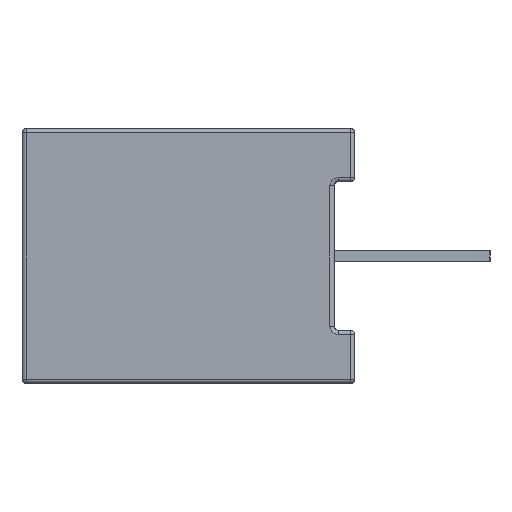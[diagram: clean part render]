
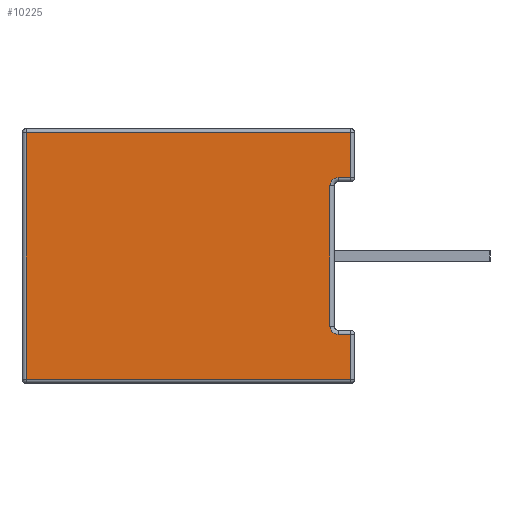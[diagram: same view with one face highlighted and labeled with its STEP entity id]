
A CAD part, left-side view. The second image highlights one B-rep face of the part: STEP entity #10225.
In plain terms, the highlighted planar face has unit normal (-1, 0, 0).
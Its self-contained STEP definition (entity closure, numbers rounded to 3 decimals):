
#312 = CARTESIAN_POINT ( 'NONE',  ( -12.05, 7.522, -3.01 ) ) ;
#360 = ORIENTED_EDGE ( 'NONE', *, *, #26099, .T. ) ;
#742 = CARTESIAN_POINT ( 'NONE',  ( -12.05, -0.1, -1.91 ) ) ;
#1644 = EDGE_CURVE ( 'NONE', #15298, #9460, #17865, .T. ) ;
#1932 = CARTESIAN_POINT ( 'NONE',  ( -12.05, 7.622, 3.11 ) ) ;
#2129 = VERTEX_POINT ( 'NONE', #24159 ) ;
#2350 = VECTOR ( 'NONE', #8191, 1000. ) ;
#3985 = VECTOR ( 'NONE', #30555, 1000. ) ;
#4124 = DIRECTION ( 'NONE',  ( 0., 0., 1. ) ) ;
#4594 = VECTOR ( 'NONE', #28759, 1000. ) ;
#4979 = VERTEX_POINT ( 'NONE', #10432 ) ;
#5230 = CARTESIAN_POINT ( 'NONE',  ( -12.05, 7.622, 3.01 ) ) ;
#6700 = DIRECTION ( 'NONE',  ( 0., -1., 0. ) ) ;
#6976 = CARTESIAN_POINT ( 'NONE',  ( -12.05, 0.1, 1.71 ) ) ;
#8064 = DIRECTION ( 'NONE',  ( 0., 0., -1. ) ) ;
#8118 = ORIENTED_EDGE ( 'NONE', *, *, #22806, .T. ) ;
#8191 = DIRECTION ( 'NONE',  ( 0., 0., -1. ) ) ;
#8561 = ORIENTED_EDGE ( 'NONE', *, *, #20427, .T. ) ;
#8851 = ORIENTED_EDGE ( 'NONE', *, *, #19604, .T. ) ;
#9460 = VERTEX_POINT ( 'NONE', #12638 ) ;
#9788 = AXIS2_PLACEMENT_3D ( 'NONE', #23592, #20195, #15175 ) ;
#9998 = CARTESIAN_POINT ( 'NONE',  ( -12.05, -0.1, 1.91 ) ) ;
#10225 = ADVANCED_FACE ( 'NONE', ( #15593 ), #12724, .F. ) ;
#10432 = CARTESIAN_POINT ( 'NONE',  ( -12.05, -0.408, -1.91 ) ) ;
#10753 = DIRECTION ( 'NONE',  ( -1., 0., 0. ) ) ;
#10861 = LINE ( 'NONE', #21814, #11506 ) ;
#11506 = VECTOR ( 'NONE', #35102, 1000. ) ;
#11853 = CARTESIAN_POINT ( 'NONE',  ( -12.05, 0.1, 3.11 ) ) ;
#12026 = LINE ( 'NONE', #11853, #12263 ) ;
#12069 = CARTESIAN_POINT ( 'NONE',  ( -12.05, -0.408, 1.91 ) ) ;
#12263 = VECTOR ( 'NONE', #4124, 1000. ) ;
#12270 = VERTEX_POINT ( 'NONE', #9998 ) ;
#12638 = CARTESIAN_POINT ( 'NONE',  ( -12.05, -0.408, 3.01 ) ) ;
#12720 = CARTESIAN_POINT ( 'NONE',  ( -12.05, 7.522, 3.01 ) ) ;
#12724 = PLANE ( 'NONE',  #20561 ) ;
#13450 = DIRECTION ( 'NONE',  ( 0., -1., 0. ) ) ;
#14440 = LINE ( 'NONE', #25907, #25389 ) ;
#15086 = AXIS2_PLACEMENT_3D ( 'NONE', #22068, #10753, #8064 ) ;
#15111 = LINE ( 'NONE', #21011, #4594 ) ;
#15175 = DIRECTION ( 'NONE',  ( 0., 0., -1. ) ) ;
#15298 = VERTEX_POINT ( 'NONE', #12069 ) ;
#15593 = FACE_OUTER_BOUND ( 'NONE', #20928, .T. ) ;
#16546 = LINE ( 'NONE', #5230, #3985 ) ;
#16693 = CARTESIAN_POINT ( 'NONE',  ( -12.05, 7.622, 1.91 ) ) ;
#17509 = DIRECTION ( 'NONE',  ( 0., 0., 1. ) ) ;
#17865 = LINE ( 'NONE', #23062, #21553 ) ;
#19604 = EDGE_CURVE ( 'NONE', #9460, #22415, #16546, .T. ) ;
#19699 = VERTEX_POINT ( 'NONE', #742 ) ;
#20195 = DIRECTION ( 'NONE',  ( -1., 0., 0. ) ) ;
#20427 = EDGE_CURVE ( 'NONE', #12270, #15298, #35530, .T. ) ;
#20561 = AXIS2_PLACEMENT_3D ( 'NONE', #1932, #23663, #24003 ) ;
#20592 = VERTEX_POINT ( 'NONE', #6976 ) ;
#20928 = EDGE_LOOP ( 'NONE', ( #29739, #8118, #22556, #30121, #23774, #8561, #23581, #8851, #360, #23082 ) ) ;
#21011 = CARTESIAN_POINT ( 'NONE',  ( -12.05, 0., -1.91 ) ) ;
#21164 = CARTESIAN_POINT ( 'NONE',  ( -12.05, 0.1, -1.71 ) ) ;
#21553 = VECTOR ( 'NONE', #17509, 1000. ) ;
#21814 = CARTESIAN_POINT ( 'NONE',  ( -12.05, -0.408, -1.81 ) ) ;
#21836 = LINE ( 'NONE', #32785, #2350 ) ;
#22068 = CARTESIAN_POINT ( 'NONE',  ( -12.05, -0.1, -1.71 ) ) ;
#22415 = VERTEX_POINT ( 'NONE', #12720 ) ;
#22556 = ORIENTED_EDGE ( 'NONE', *, *, #29132, .F. ) ;
#22806 = EDGE_CURVE ( 'NONE', #4979, #19699, #15111, .T. ) ;
#23062 = CARTESIAN_POINT ( 'NONE',  ( -12.05, -0.408, 3.11 ) ) ;
#23082 = ORIENTED_EDGE ( 'NONE', *, *, #28640, .T. ) ;
#23581 = ORIENTED_EDGE ( 'NONE', *, *, #1644, .T. ) ;
#23592 = CARTESIAN_POINT ( 'NONE',  ( -12.05, -0.1, 1.71 ) ) ;
#23663 = DIRECTION ( 'NONE',  ( 1., 0., 0. ) ) ;
#23664 = EDGE_CURVE ( 'NONE', #2129, #4979, #10861, .T. ) ;
#23774 = ORIENTED_EDGE ( 'NONE', *, *, #24055, .F. ) ;
#24003 = DIRECTION ( 'NONE',  ( 0., 0., -1. ) ) ;
#24055 = EDGE_CURVE ( 'NONE', #12270, #20592, #25812, .T. ) ;
#24159 = CARTESIAN_POINT ( 'NONE',  ( -12.05, -0.408, -3.01 ) ) ;
#25389 = VECTOR ( 'NONE', #6700, 1000. ) ;
#25812 = CIRCLE ( 'NONE', #9788, 0.2 ) ;
#25907 = CARTESIAN_POINT ( 'NONE',  ( -12.05, 7.622, -3.01 ) ) ;
#26099 = EDGE_CURVE ( 'NONE', #22415, #32840, #21836, .T. ) ;
#28123 = VECTOR ( 'NONE', #13450, 1000. ) ;
#28124 = VERTEX_POINT ( 'NONE', #21164 ) ;
#28640 = EDGE_CURVE ( 'NONE', #32840, #2129, #14440, .T. ) ;
#28759 = DIRECTION ( 'NONE',  ( 0., 1., 0. ) ) ;
#28852 = CIRCLE ( 'NONE', #15086, 0.2 ) ;
#29132 = EDGE_CURVE ( 'NONE', #28124, #19699, #28852, .T. ) ;
#29739 = ORIENTED_EDGE ( 'NONE', *, *, #23664, .T. ) ;
#30121 = ORIENTED_EDGE ( 'NONE', *, *, #33804, .T. ) ;
#30555 = DIRECTION ( 'NONE',  ( 0., 1., 0. ) ) ;
#32785 = CARTESIAN_POINT ( 'NONE',  ( -12.05, 7.522, -3.11 ) ) ;
#32840 = VERTEX_POINT ( 'NONE', #312 ) ;
#33804 = EDGE_CURVE ( 'NONE', #28124, #20592, #12026, .T. ) ;
#35102 = DIRECTION ( 'NONE',  ( 0., 0., 1. ) ) ;
#35530 = LINE ( 'NONE', #16693, #28123 ) ;
